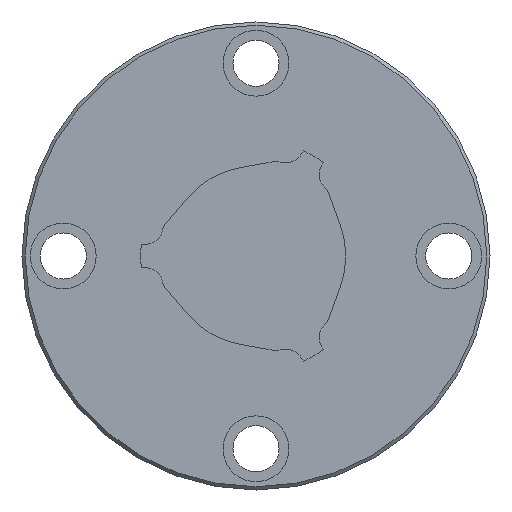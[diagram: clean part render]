
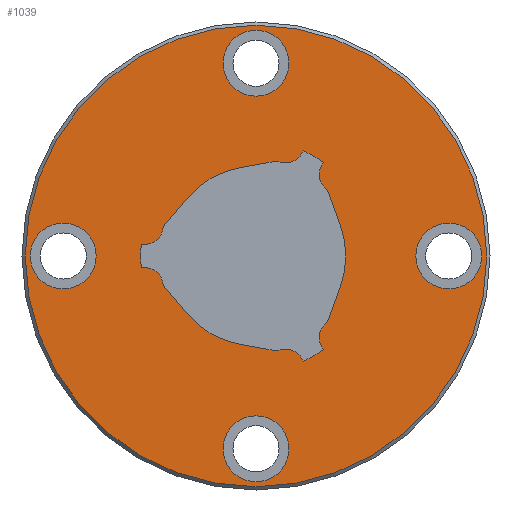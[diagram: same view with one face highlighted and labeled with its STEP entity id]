
A CAD part, left-side view. The second image highlights one B-rep face of the part: STEP entity #1039.
In plain terms, the highlighted planar face has unit normal (-1, 0, 0).
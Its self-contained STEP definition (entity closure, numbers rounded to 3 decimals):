
#45=PLANE('',#1156);
#91=LINE('',#1728,#151);
#92=LINE('',#1737,#152);
#93=LINE('',#1741,#153);
#94=LINE('',#1749,#154);
#95=LINE('',#1753,#155);
#96=LINE('',#1761,#156);
#151=VECTOR('',#1389,1000.);
#152=VECTOR('',#1396,1000.);
#153=VECTOR('',#1399,1000.);
#154=VECTOR('',#1406,1000.);
#155=VECTOR('',#1409,1000.);
#156=VECTOR('',#1416,1000.);
#289=ORIENTED_EDGE('',*,*,#513,.F.);
#290=ORIENTED_EDGE('',*,*,#514,.F.);
#291=ORIENTED_EDGE('',*,*,#515,.T.);
#292=ORIENTED_EDGE('',*,*,#516,.T.);
#293=ORIENTED_EDGE('',*,*,#517,.T.);
#294=ORIENTED_EDGE('',*,*,#518,.T.);
#295=ORIENTED_EDGE('',*,*,#519,.F.);
#296=ORIENTED_EDGE('',*,*,#520,.T.);
#297=ORIENTED_EDGE('',*,*,#521,.F.);
#298=ORIENTED_EDGE('',*,*,#522,.T.);
#299=ORIENTED_EDGE('',*,*,#523,.T.);
#300=ORIENTED_EDGE('',*,*,#524,.T.);
#301=ORIENTED_EDGE('',*,*,#525,.F.);
#302=ORIENTED_EDGE('',*,*,#526,.T.);
#303=ORIENTED_EDGE('',*,*,#527,.F.);
#304=ORIENTED_EDGE('',*,*,#528,.T.);
#305=ORIENTED_EDGE('',*,*,#529,.T.);
#306=ORIENTED_EDGE('',*,*,#530,.T.);
#307=ORIENTED_EDGE('',*,*,#531,.F.);
#308=ORIENTED_EDGE('',*,*,#532,.T.);
#309=ORIENTED_EDGE('',*,*,#533,.F.);
#310=ORIENTED_EDGE('',*,*,#534,.T.);
#311=ORIENTED_EDGE('',*,*,#535,.T.);
#513=EDGE_CURVE('',#634,#634,#725,.T.);
#514=EDGE_CURVE('',#635,#635,#726,.F.);
#515=EDGE_CURVE('',#636,#636,#727,.T.);
#516=EDGE_CURVE('',#637,#637,#728,.T.);
#517=EDGE_CURVE('',#638,#638,#729,.T.);
#518=EDGE_CURVE('',#639,#640,#91,.T.);
#519=EDGE_CURVE('',#641,#640,#730,.T.);
#520=EDGE_CURVE('',#641,#642,#731,.T.);
#521=EDGE_CURVE('',#643,#642,#732,.T.);
#522=EDGE_CURVE('',#643,#644,#92,.T.);
#523=EDGE_CURVE('',#644,#645,#733,.T.);
#524=EDGE_CURVE('',#645,#646,#93,.T.);
#525=EDGE_CURVE('',#647,#646,#734,.T.);
#526=EDGE_CURVE('',#647,#648,#735,.T.);
#527=EDGE_CURVE('',#649,#648,#736,.T.);
#528=EDGE_CURVE('',#649,#650,#94,.T.);
#529=EDGE_CURVE('',#650,#651,#737,.T.);
#530=EDGE_CURVE('',#651,#652,#95,.T.);
#531=EDGE_CURVE('',#653,#652,#738,.T.);
#532=EDGE_CURVE('',#653,#654,#739,.T.);
#533=EDGE_CURVE('',#655,#654,#740,.T.);
#534=EDGE_CURVE('',#655,#656,#96,.T.);
#535=EDGE_CURVE('',#656,#639,#741,.T.);
#634=VERTEX_POINT('',#1719);
#635=VERTEX_POINT('',#1721);
#636=VERTEX_POINT('',#1723);
#637=VERTEX_POINT('',#1725);
#638=VERTEX_POINT('',#1727);
#639=VERTEX_POINT('',#1729);
#640=VERTEX_POINT('',#1730);
#641=VERTEX_POINT('',#1732);
#642=VERTEX_POINT('',#1734);
#643=VERTEX_POINT('',#1736);
#644=VERTEX_POINT('',#1738);
#645=VERTEX_POINT('',#1740);
#646=VERTEX_POINT('',#1742);
#647=VERTEX_POINT('',#1744);
#648=VERTEX_POINT('',#1746);
#649=VERTEX_POINT('',#1748);
#650=VERTEX_POINT('',#1750);
#651=VERTEX_POINT('',#1752);
#652=VERTEX_POINT('',#1754);
#653=VERTEX_POINT('',#1756);
#654=VERTEX_POINT('',#1758);
#655=VERTEX_POINT('',#1760);
#656=VERTEX_POINT('',#1762);
#725=CIRCLE('',#1157,70.);
#726=CIRCLE('',#1158,10.);
#727=CIRCLE('',#1159,10.);
#728=CIRCLE('',#1160,10.);
#729=CIRCLE('',#1161,10.);
#730=CIRCLE('',#1162,5.78);
#731=CIRCLE('',#1163,35.);
#732=CIRCLE('',#1164,5.78);
#733=CIRCLE('',#1165,27.25);
#734=CIRCLE('',#1166,5.78);
#735=CIRCLE('',#1167,35.);
#736=CIRCLE('',#1168,5.78);
#737=CIRCLE('',#1169,27.25);
#738=CIRCLE('',#1170,5.78);
#739=CIRCLE('',#1171,35.);
#740=CIRCLE('',#1172,5.78);
#741=CIRCLE('',#1173,27.25);
#797=EDGE_LOOP('',(#289));
#798=EDGE_LOOP('',(#290));
#799=EDGE_LOOP('',(#291));
#800=EDGE_LOOP('',(#292));
#801=EDGE_LOOP('',(#293));
#802=EDGE_LOOP('',(#294,#295,#296,#297,#298,#299,#300,#301,#302,#303,#304,
#305,#306,#307,#308,#309,#310,#311));
#899=FACE_BOUND('',#797,.T.);
#900=FACE_BOUND('',#798,.T.);
#901=FACE_BOUND('',#799,.T.);
#902=FACE_BOUND('',#800,.T.);
#903=FACE_BOUND('',#801,.T.);
#904=FACE_BOUND('',#802,.T.);
#1039=ADVANCED_FACE('',(#899,#900,#901,#902,#903,#904),#45,.F.);
#1156=AXIS2_PLACEMENT_3D('',#1717,#1377,#1378);
#1157=AXIS2_PLACEMENT_3D('',#1718,#1379,#1380);
#1158=AXIS2_PLACEMENT_3D('',#1720,#1381,#1382);
#1159=AXIS2_PLACEMENT_3D('',#1722,#1383,#1384);
#1160=AXIS2_PLACEMENT_3D('',#1724,#1385,#1386);
#1161=AXIS2_PLACEMENT_3D('',#1726,#1387,#1388);
#1162=AXIS2_PLACEMENT_3D('',#1731,#1390,#1391);
#1163=AXIS2_PLACEMENT_3D('',#1733,#1392,#1393);
#1164=AXIS2_PLACEMENT_3D('',#1735,#1394,#1395);
#1165=AXIS2_PLACEMENT_3D('',#1739,#1397,#1398);
#1166=AXIS2_PLACEMENT_3D('',#1743,#1400,#1401);
#1167=AXIS2_PLACEMENT_3D('',#1745,#1402,#1403);
#1168=AXIS2_PLACEMENT_3D('',#1747,#1404,#1405);
#1169=AXIS2_PLACEMENT_3D('',#1751,#1407,#1408);
#1170=AXIS2_PLACEMENT_3D('',#1755,#1410,#1411);
#1171=AXIS2_PLACEMENT_3D('',#1757,#1412,#1413);
#1172=AXIS2_PLACEMENT_3D('',#1759,#1414,#1415);
#1173=AXIS2_PLACEMENT_3D('',#1763,#1417,#1418);
#1377=DIRECTION('',(1.,0.,0.));
#1378=DIRECTION('',(0.,0.,-1.));
#1379=DIRECTION('',(1.,0.,0.));
#1380=DIRECTION('',(0.,0.,-1.));
#1381=DIRECTION('',(1.,0.,0.));
#1382=DIRECTION('',(0.,0.,-1.));
#1383=DIRECTION('',(1.,0.,0.));
#1384=DIRECTION('',(0.,0.,-1.));
#1385=DIRECTION('',(1.,0.,0.));
#1386=DIRECTION('',(0.,0.,-1.));
#1387=DIRECTION('',(1.,0.,0.));
#1388=DIRECTION('',(0.,0.,-1.));
#1389=DIRECTION('',(0.,-0.985,0.174));
#1390=DIRECTION('',(1.,0.,0.));
#1391=DIRECTION('',(0.,0.,-1.));
#1392=DIRECTION('',(1.,0.,0.));
#1393=DIRECTION('',(0.,0.,-1.));
#1394=DIRECTION('',(1.,0.,0.));
#1395=DIRECTION('',(0.,0.,-1.));
#1396=DIRECTION('',(0.,-0.342,-0.94));
#1397=DIRECTION('',(1.,0.,0.));
#1398=DIRECTION('',(0.,0.,-1.));
#1399=DIRECTION('',(0.,0.342,-0.94));
#1400=DIRECTION('',(1.,0.,0.));
#1401=DIRECTION('',(0.,0.,-1.));
#1402=DIRECTION('',(1.,0.,0.));
#1403=DIRECTION('',(0.,0.,-1.));
#1404=DIRECTION('',(1.,0.,0.));
#1405=DIRECTION('',(0.,0.,-1.));
#1406=DIRECTION('',(0.,0.985,0.174));
#1407=DIRECTION('',(1.,0.,0.));
#1408=DIRECTION('',(0.,0.,-1.));
#1409=DIRECTION('',(0.,0.643,0.766));
#1410=DIRECTION('',(1.,0.,0.));
#1411=DIRECTION('',(0.,0.,-1.));
#1412=DIRECTION('',(1.,0.,0.));
#1413=DIRECTION('',(0.,0.,-1.));
#1414=DIRECTION('',(1.,0.,0.));
#1415=DIRECTION('',(0.,0.,-1.));
#1416=DIRECTION('',(0.,-0.643,0.766));
#1417=DIRECTION('',(1.,0.,0.));
#1418=DIRECTION('',(0.,0.,-1.));
#1717=CARTESIAN_POINT('',(0.,0.,0.));
#1718=CARTESIAN_POINT('',(0.,0.,0.));
#1719=CARTESIAN_POINT('',(0.,0.,-70.));
#1720=CARTESIAN_POINT('',(0.,58.5,0.));
#1721=CARTESIAN_POINT('',(0.,58.5,-10.));
#1722=CARTESIAN_POINT('',(0.,0.,58.5));
#1723=CARTESIAN_POINT('',(0.,0.,48.5));
#1724=CARTESIAN_POINT('',(0.,-58.5,0.));
#1725=CARTESIAN_POINT('',(0.,-58.5,-10.));
#1726=CARTESIAN_POINT('',(0.,0.,-58.5));
#1727=CARTESIAN_POINT('',(0.,0.,-68.5));
#1728=CARTESIAN_POINT('',(0.,4.732,26.836));
#1729=CARTESIAN_POINT('',(0.,4.732,26.836));
#1730=CARTESIAN_POINT('',(0.,-6.42,28.802));
#1731=CARTESIAN_POINT('',(0.,-8.947,34.001));
#1732=CARTESIAN_POINT('',(0.,-14.342,31.926));
#1733=CARTESIAN_POINT('',(0.,0.,0.));
#1734=CARTESIAN_POINT('',(0.,-20.478,28.384));
#1735=CARTESIAN_POINT('',(0.,-24.972,24.749));
#1736=CARTESIAN_POINT('',(0.,-21.733,19.961));
#1737=CARTESIAN_POINT('',(0.,-21.733,19.961));
#1738=CARTESIAN_POINT('',(0.,-25.607,9.32));
#1739=CARTESIAN_POINT('',(0.,0.,0.));
#1740=CARTESIAN_POINT('',(0.,-25.607,-9.32));
#1741=CARTESIAN_POINT('',(0.,-25.607,-9.32));
#1742=CARTESIAN_POINT('',(0.,-21.733,-19.961));
#1743=CARTESIAN_POINT('',(0.,-24.972,-24.749));
#1744=CARTESIAN_POINT('',(0.,-20.478,-28.384));
#1745=CARTESIAN_POINT('',(0.,0.,0.));
#1746=CARTESIAN_POINT('',(0.,-14.342,-31.926));
#1747=CARTESIAN_POINT('',(0.,-8.947,-34.001));
#1748=CARTESIAN_POINT('',(0.,-6.42,-28.802));
#1749=CARTESIAN_POINT('',(0.,-6.42,-28.802));
#1750=CARTESIAN_POINT('',(0.,4.732,-26.836));
#1751=CARTESIAN_POINT('',(0.,0.,0.));
#1752=CARTESIAN_POINT('',(0.,20.875,-17.516));
#1753=CARTESIAN_POINT('',(0.,20.875,-17.516));
#1754=CARTESIAN_POINT('',(0.,28.154,-8.841));
#1755=CARTESIAN_POINT('',(0.,33.919,-9.252));
#1756=CARTESIAN_POINT('',(0.,34.82,-3.543));
#1757=CARTESIAN_POINT('',(0.,0.,0.));
#1758=CARTESIAN_POINT('',(0.,34.82,3.543));
#1759=CARTESIAN_POINT('',(0.,33.919,9.252));
#1760=CARTESIAN_POINT('',(0.,28.154,8.841));
#1761=CARTESIAN_POINT('',(0.,28.154,8.841));
#1762=CARTESIAN_POINT('',(0.,20.875,17.516));
#1763=CARTESIAN_POINT('',(0.,0.,0.));
